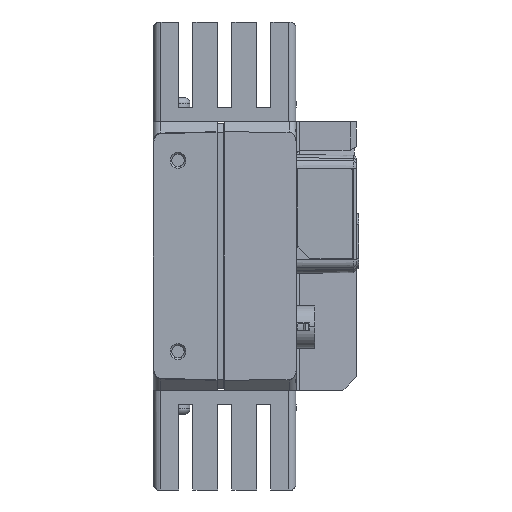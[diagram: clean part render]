
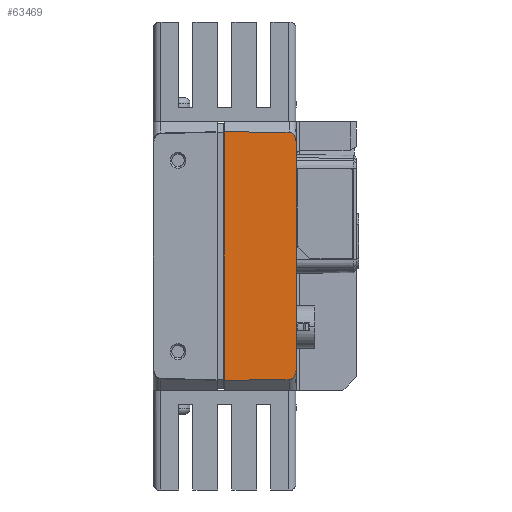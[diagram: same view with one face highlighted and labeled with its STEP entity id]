
A CAD part, left-side view. The second image highlights one B-rep face of the part: STEP entity #63469.
In plain terms, the highlighted planar face has unit normal (-1, -0.009, 0).
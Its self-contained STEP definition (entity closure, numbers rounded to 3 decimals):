
#3906=DIRECTION('',(0.,0.,1.));
#3907=VECTOR('',#3906,64.246);
#3908=CARTESIAN_POINT('',(-37.823,-21.3,
-32.123));
#3909=LINE('',#3908,#3907);
#4334=DIRECTION('',(-0.009,1.,0.004));
#4335=VECTOR('',#4334,18.318);
#4336=CARTESIAN_POINT('',(-37.84,-19.317,
34.934));
#4337=LINE('',#4336,#4335);
#4361=CARTESIAN_POINT('',(-37.823,-21.3,
32.123));
#4362=CARTESIAN_POINT('',(-37.823,-21.3,
32.322));
#4363=CARTESIAN_POINT('',(-37.823,-21.271,
32.692));
#4364=CARTESIAN_POINT('',(-37.824,-21.129,
33.348));
#4365=CARTESIAN_POINT('',(-37.826,-20.883,
33.901));
#4366=CARTESIAN_POINT('',(-37.829,-20.539,
34.356));
#4367=CARTESIAN_POINT('',(-37.832,-20.225,
34.641));
#4368=CARTESIAN_POINT('',(-37.835,-19.905,
34.821));
#4369=CARTESIAN_POINT('',(-37.838,-19.596,
34.913));
#4370=CARTESIAN_POINT('',(-37.839,-19.417,
34.933));
#4371=CARTESIAN_POINT('',(-37.84,-19.317,
34.934));
#7121=DIRECTION('',(0.009,-1.,0.004));
#7122=VECTOR('',#7121,18.318);
#7123=CARTESIAN_POINT('',(-38.,-1.,-35.));
#7124=LINE('',#7123,#7122);
#7129=DIRECTION('',(0.,0.,1.));
#7130=VECTOR('',#7129,70.);
#7131=CARTESIAN_POINT('',(-38.,-1.,-35.));
#7132=LINE('',#7131,#7130);
#7142=CARTESIAN_POINT('',(-37.84,-19.317,
-34.934));
#7143=CARTESIAN_POINT('',(-37.84,-19.337,
-34.934));
#7144=CARTESIAN_POINT('',(-37.84,-19.377,
-34.933));
#7145=CARTESIAN_POINT('',(-37.839,-19.437,
-34.929));
#7146=CARTESIAN_POINT('',(-37.839,-19.496,
-34.922));
#7147=CARTESIAN_POINT('',(-37.838,-19.556,
-34.913));
#7148=CARTESIAN_POINT('',(-37.838,-19.616,
-34.901));
#7149=CARTESIAN_POINT('',(-37.837,-19.675,
-34.887));
#7150=CARTESIAN_POINT('',(-37.837,-19.735,
-34.87));
#7151=CARTESIAN_POINT('',(-37.836,-19.795,
-34.851));
#7152=CARTESIAN_POINT('',(-37.835,-19.855,
-34.828));
#7153=CARTESIAN_POINT('',(-37.835,-19.914,
-34.803));
#7154=CARTESIAN_POINT('',(-37.834,-19.974,
-34.775));
#7155=CARTESIAN_POINT('',(-37.834,-20.034,
-34.743));
#7156=CARTESIAN_POINT('',(-37.833,-20.094,
-34.709));
#7157=CARTESIAN_POINT('',(-37.833,-20.153,
-34.671));
#7158=CARTESIAN_POINT('',(-37.832,-20.213,
-34.63));
#7159=CARTESIAN_POINT('',(-37.832,-20.272,
-34.586));
#7160=CARTESIAN_POINT('',(-37.831,-20.331,
-34.538));
#7161=CARTESIAN_POINT('',(-37.831,-20.39,
-34.487));
#7162=CARTESIAN_POINT('',(-37.83,-20.448,
-34.432));
#7163=CARTESIAN_POINT('',(-37.83,-20.506,
-34.373));
#7164=CARTESIAN_POINT('',(-37.829,-20.563,
-34.31));
#7165=CARTESIAN_POINT('',(-37.829,-20.619,
-34.244));
#7166=CARTESIAN_POINT('',(-37.828,-20.675,
-34.173));
#7167=CARTESIAN_POINT('',(-37.828,-20.729,
-34.098));
#7168=CARTESIAN_POINT('',(-37.827,-20.782,
-34.019));
#7169=CARTESIAN_POINT('',(-37.827,-20.834,
-33.935));
#7170=CARTESIAN_POINT('',(-37.826,-20.884,
-33.848));
#7171=CARTESIAN_POINT('',(-37.826,-20.932,
-33.756));
#7172=CARTESIAN_POINT('',(-37.826,-20.978,
-33.661));
#7173=CARTESIAN_POINT('',(-37.825,-21.022,
-33.561));
#7174=CARTESIAN_POINT('',(-37.825,-21.063,
-33.457));
#7175=CARTESIAN_POINT('',(-37.825,-21.102,
-33.349));
#7176=CARTESIAN_POINT('',(-37.824,-21.138,
-33.238));
#7177=CARTESIAN_POINT('',(-37.824,-21.171,
-33.124));
#7178=CARTESIAN_POINT('',(-37.824,-21.2,
-33.006));
#7179=CARTESIAN_POINT('',(-37.823,-21.226,
-32.886));
#7180=CARTESIAN_POINT('',(-37.823,-21.249,
-32.763));
#7181=CARTESIAN_POINT('',(-37.823,-21.267,
-32.637));
#7182=CARTESIAN_POINT('',(-37.823,-21.282,
-32.51));
#7183=CARTESIAN_POINT('',(-37.823,-21.292,
-32.382));
#7184=CARTESIAN_POINT('',(-37.823,-21.299,
-32.253));
#7185=CARTESIAN_POINT('',(-37.823,-21.3,
-32.166));
#7186=CARTESIAN_POINT('',(-37.823,-21.3,
-32.123));
#46997=CARTESIAN_POINT('',(-38.,-1.,35.));
#46998=VERTEX_POINT('',#46997);
#46999=CARTESIAN_POINT('',(-38.,-1.,-35.));
#47000=VERTEX_POINT('',#46999);
#47019=CARTESIAN_POINT('',(-37.84,-19.317,
34.934));
#47020=VERTEX_POINT('',#47019);
#47030=CARTESIAN_POINT('',(-37.823,-21.3,
32.123));
#47031=VERTEX_POINT('',#47030);
#48193=CARTESIAN_POINT('',(-37.823,-21.3,
-32.123));
#48194=VERTEX_POINT('',#48193);
#48609=CARTESIAN_POINT('',(-37.84,-19.317,
-34.934));
#48610=VERTEX_POINT('',#48609);
#63455=CARTESIAN_POINT('',(-37.911,-11.15,0.));
#63456=DIRECTION('',(1.,0.009,0.));
#63457=DIRECTION('',(0.,0.,-1.));
#63458=AXIS2_PLACEMENT_3D('',#63455,#63456,#63457);
#63459=PLANE('',#63458);
#63460=ORIENTED_EDGE('',*,*,#60004,.F.);
#63461=ORIENTED_EDGE('',*,*,#59598,.F.);
#63463=ORIENTED_EDGE('',*,*,#63462,.F.);
#63464=ORIENTED_EDGE('',*,*,#63448,.F.);
#63465=ORIENTED_EDGE('',*,*,#59926,.T.);
#63466=ORIENTED_EDGE('',*,*,#59969,.F.);
#63467=EDGE_LOOP('',(#63460,#63461,#63463,#63464,#63465,#63466));
#63468=FACE_OUTER_BOUND('',#63467,.F.);
#63469=ADVANCED_FACE('',(#63468),#63459,.F.);
#4372=B_SPLINE_CURVE_WITH_KNOTS('',3,(#4361,#4362,#4363,#4364,#4365,#4366,#4367,
#4368,#4369,#4370,#4371),.UNSPECIFIED.,.F.,.F.,(4,1,1,1,1,1,1,1,4),(0.,
0.125,0.25,0.5,0.625,0.75,0.875,0.938,1.),.UNSPECIFIED.);
#7187=B_SPLINE_CURVE_WITH_KNOTS('',3,(#7142,#7143,#7144,#7145,#7146,#7147,#7148,
#7149,#7150,#7151,#7152,#7153,#7154,#7155,#7156,#7157,#7158,#7159,#7160,#7161,
#7162,#7163,#7164,#7165,#7166,#7167,#7168,#7169,#7170,#7171,#7172,#7173,#7174,
#7175,#7176,#7177,#7178,#7179,#7180,#7181,#7182,#7183,#7184,#7185,#7186),
.UNSPECIFIED.,.F.,.F.,(4,1,1,1,1,1,1,1,1,1,1,1,1,1,1,1,1,1,1,1,1,1,1,1,1,1,1,1,
1,1,1,1,1,1,1,1,1,1,1,1,1,1,4),(0.,0.024,0.048,
0.071,0.095,0.119,0.143,
0.167,0.19,0.214,0.238,
0.262,0.286,0.31,0.333,
0.357,0.381,0.405,0.429,
0.452,0.476,0.5,0.524,0.548,
0.571,0.595,0.619,0.643,
0.667,0.69,0.714,0.738,
0.762,0.786,0.81,0.833,
0.857,0.881,0.905,0.929,
0.952,0.976,1.),.UNSPECIFIED.);
#59598=EDGE_CURVE('',#48194,#47031,#3909,.T.);
#59926=EDGE_CURVE('',#47000,#46998,#7132,.T.);
#59969=EDGE_CURVE('',#47020,#46998,#4337,.T.);
#60004=EDGE_CURVE('',#47031,#47020,#4372,.T.);
#63448=EDGE_CURVE('',#47000,#48610,#7124,.T.);
#63462=EDGE_CURVE('',#48610,#48194,#7187,.T.);
